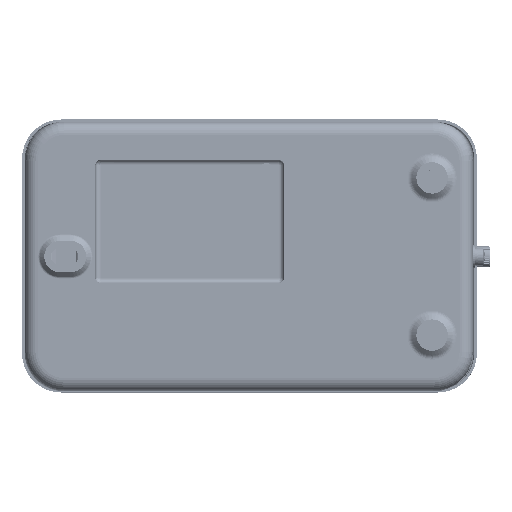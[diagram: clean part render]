
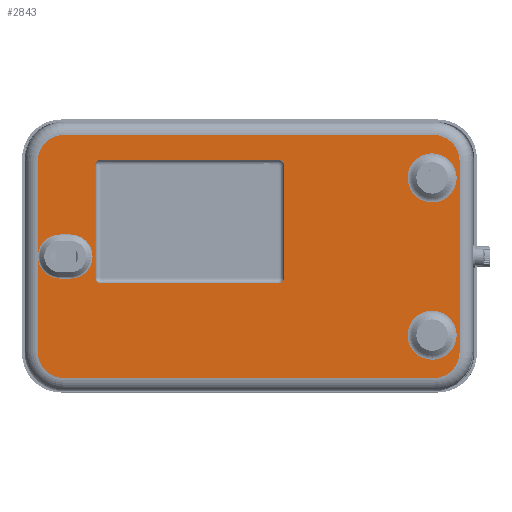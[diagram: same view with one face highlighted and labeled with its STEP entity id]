
A CAD part, top view. The second image highlights one B-rep face of the part: STEP entity #2843.
In plain terms, the highlighted planar face has unit normal (0, 0, 1).
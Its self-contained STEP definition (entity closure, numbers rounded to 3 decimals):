
#83=CARTESIAN_POINT('',(-70.5,36.4,61.8));
#84=DIRECTION('',(0.,0.,1.));
#85=DIRECTION('',(0.,1.,0.));
#86=AXIS2_PLACEMENT_3D('',#83,#84,#85);
#88=DIRECTION('',(-1.,0.,0.));
#89=VECTOR('',#88,141.);
#90=CARTESIAN_POINT('',(70.5,46.4,61.8));
#91=LINE('',#90,#89);
#92=CARTESIAN_POINT('',(70.5,36.4,61.8));
#93=DIRECTION('',(0.,0.,1.));
#94=DIRECTION('',(1.,0.,0.));
#95=AXIS2_PLACEMENT_3D('',#92,#93,#94);
#97=DIRECTION('',(0.,1.,0.));
#98=VECTOR('',#97,72.8);
#99=CARTESIAN_POINT('',(80.5,-36.4,61.8));
#100=LINE('',#99,#98);
#101=CARTESIAN_POINT('',(70.5,-36.4,61.8));
#102=DIRECTION('',(0.,0.,1.));
#103=DIRECTION('',(0.,-1.,0.));
#104=AXIS2_PLACEMENT_3D('',#101,#102,#103);
#106=DIRECTION('',(1.,0.,0.));
#107=VECTOR('',#106,141.);
#108=CARTESIAN_POINT('',(-70.5,-46.4,61.8));
#109=LINE('',#108,#107);
#110=CARTESIAN_POINT('',(-70.5,-36.4,61.8));
#111=DIRECTION('',(0.,0.,1.));
#112=DIRECTION('',(-1.,0.,0.));
#113=AXIS2_PLACEMENT_3D('',#110,#111,#112);
#115=DIRECTION('',(0.,-1.,0.));
#116=VECTOR('',#115,72.8);
#117=CARTESIAN_POINT('',(-80.5,36.4,61.8));
#118=LINE('',#117,#116);
#119=DIRECTION('',(1.,0.,0.));
#120=VECTOR('',#119,68.);
#121=CARTESIAN_POINT('',(-56.5,-10.1,61.8));
#122=LINE('',#121,#120);
#123=DIRECTION('',(0.,1.,0.));
#124=VECTOR('',#123,43.);
#125=CARTESIAN_POINT('',(13.5,-8.1,61.8));
#126=LINE('',#125,#124);
#127=DIRECTION('',(-1.,0.,0.));
#128=VECTOR('',#127,68.);
#129=CARTESIAN_POINT('',(11.5,36.9,61.8));
#130=LINE('',#129,#128);
#131=DIRECTION('',(0.,-1.,0.));
#132=VECTOR('',#131,43.);
#133=CARTESIAN_POINT('',(-58.5,34.9,61.8));
#134=LINE('',#133,#132);
#135=CARTESIAN_POINT('',(70.,30.,61.8));
#136=DIRECTION('',(0.,0.,1.));
#137=DIRECTION('',(-1.,0.,0.));
#138=AXIS2_PLACEMENT_3D('',#135,#136,#137);
#140=CARTESIAN_POINT('',(70.,30.,61.8));
#141=DIRECTION('',(0.,0.,1.));
#142=DIRECTION('',(1.,0.,0.));
#143=AXIS2_PLACEMENT_3D('',#140,#141,#142);
#145=CARTESIAN_POINT('',(70.,-30.,61.8));
#146=DIRECTION('',(0.,0.,1.));
#147=DIRECTION('',(-1.,0.,0.));
#148=AXIS2_PLACEMENT_3D('',#145,#146,#147);
#150=CARTESIAN_POINT('',(70.,-30.,61.8));
#151=DIRECTION('',(0.,0.,1.));
#152=DIRECTION('',(1.,0.,0.));
#153=AXIS2_PLACEMENT_3D('',#150,#151,#152);
#155=DIRECTION('',(-1.,0.,0.));
#156=VECTOR('',#155,4.);
#157=CARTESIAN_POINT('',(-68.,8.414,61.8));
#158=LINE('',#157,#156);
#159=CARTESIAN_POINT('',(-72.,0.,61.8));
#160=DIRECTION('',(0.,0.,1.));
#161=DIRECTION('',(0.,1.,0.));
#162=AXIS2_PLACEMENT_3D('',#159,#160,#161);
#164=DIRECTION('',(1.,0.,0.));
#165=VECTOR('',#164,4.);
#166=CARTESIAN_POINT('',(-72.,-8.414,61.8));
#167=LINE('',#166,#165);
#168=CARTESIAN_POINT('',(-68.,0.,61.8));
#169=DIRECTION('',(0.,0.,1.));
#170=DIRECTION('',(0.,-1.,0.));
#171=AXIS2_PLACEMENT_3D('',#168,#169,#170);
#1636=CARTESIAN_POINT('',(-56.5,-8.1,61.8));
#1637=DIRECTION('',(0.,0.,-1.));
#1638=DIRECTION('',(0.,-1.,0.));
#1639=AXIS2_PLACEMENT_3D('',#1636,#1637,#1638);
#1653=CARTESIAN_POINT('',(-56.5,34.9,61.8));
#1654=DIRECTION('',(0.,0.,-1.));
#1655=DIRECTION('',(-1.,0.,0.));
#1656=AXIS2_PLACEMENT_3D('',#1653,#1654,#1655);
#1670=CARTESIAN_POINT('',(11.5,34.9,61.8));
#1671=DIRECTION('',(0.,0.,-1.));
#1672=DIRECTION('',(0.,1.,0.));
#1673=AXIS2_PLACEMENT_3D('',#1670,#1671,#1672);
#1687=CARTESIAN_POINT('',(11.5,-8.1,61.8));
#1688=DIRECTION('',(0.,0.,-1.));
#1689=DIRECTION('',(1.,0.,0.));
#1690=AXIS2_PLACEMENT_3D('',#1687,#1688,#1689);
#2122=CARTESIAN_POINT('',(-70.5,46.4,61.8));
#2123=CARTESIAN_POINT('',(-80.5,36.4,61.8));
#2124=VERTEX_POINT('',#2122);
#2125=VERTEX_POINT('',#2123);
#2130=CARTESIAN_POINT('',(-80.5,-36.4,61.8));
#2131=VERTEX_POINT('',#2130);
#2134=CARTESIAN_POINT('',(-70.5,-46.4,61.8));
#2135=VERTEX_POINT('',#2134);
#2138=CARTESIAN_POINT('',(70.5,-46.4,61.8));
#2139=VERTEX_POINT('',#2138);
#2142=CARTESIAN_POINT('',(80.5,-36.4,61.8));
#2143=VERTEX_POINT('',#2142);
#2146=CARTESIAN_POINT('',(80.5,36.4,61.8));
#2147=VERTEX_POINT('',#2146);
#2150=CARTESIAN_POINT('',(70.5,46.4,61.8));
#2151=VERTEX_POINT('',#2150);
#2578=CARTESIAN_POINT('',(11.5,-10.1,61.8));
#2579=VERTEX_POINT('',#2578);
#2580=CARTESIAN_POINT('',(13.5,-8.1,61.8));
#2582=VERTEX_POINT('',#2580);
#2588=CARTESIAN_POINT('',(13.5,34.9,61.8));
#2589=VERTEX_POINT('',#2588);
#2590=CARTESIAN_POINT('',(11.5,36.9,61.8));
#2592=VERTEX_POINT('',#2590);
#2596=CARTESIAN_POINT('',(-56.5,36.9,61.8));
#2597=VERTEX_POINT('',#2596);
#2598=CARTESIAN_POINT('',(-58.5,34.9,61.8));
#2600=VERTEX_POINT('',#2598);
#2606=CARTESIAN_POINT('',(-58.5,-8.1,61.8));
#2607=VERTEX_POINT('',#2606);
#2608=CARTESIAN_POINT('',(-56.5,-10.1,61.8));
#2609=VERTEX_POINT('',#2608);
#2677=CARTESIAN_POINT('',(60.623,30.,61.8));
#2678=CARTESIAN_POINT('',(79.377,30.,61.8));
#2679=VERTEX_POINT('',#2677);
#2680=VERTEX_POINT('',#2678);
#2685=CARTESIAN_POINT('',(60.623,-30.,61.8));
#2686=CARTESIAN_POINT('',(79.377,-30.,61.8));
#2687=VERTEX_POINT('',#2685);
#2688=VERTEX_POINT('',#2686);
#2693=CARTESIAN_POINT('',(-68.,8.414,61.8));
#2694=CARTESIAN_POINT('',(-72.,8.414,61.8));
#2695=VERTEX_POINT('',#2693);
#2696=VERTEX_POINT('',#2694);
#2701=CARTESIAN_POINT('',(-72.,-8.414,61.8));
#2702=VERTEX_POINT('',#2701);
#2705=CARTESIAN_POINT('',(-68.,-8.414,61.8));
#2706=VERTEX_POINT('',#2705);
#2781=CARTESIAN_POINT('',(0.,0.,61.8));
#2782=DIRECTION('',(0.,0.,1.));
#2783=DIRECTION('',(-1.,0.,0.));
#2784=AXIS2_PLACEMENT_3D('',#2781,#2782,#2783);
#2785=PLANE('',#2784);
#2787=ORIENTED_EDGE('',*,*,#2786,.F.);
#2789=ORIENTED_EDGE('',*,*,#2788,.F.);
#2791=ORIENTED_EDGE('',*,*,#2790,.F.);
#2793=ORIENTED_EDGE('',*,*,#2792,.F.);
#2795=ORIENTED_EDGE('',*,*,#2794,.F.);
#2797=ORIENTED_EDGE('',*,*,#2796,.F.);
#2798=ORIENTED_EDGE('',*,*,#2771,.F.);
#2800=ORIENTED_EDGE('',*,*,#2799,.F.);
#2801=EDGE_LOOP('',(#2787,#2789,#2791,#2793,#2795,#2797,#2798,#2800));
#2802=FACE_OUTER_BOUND('',#2801,.F.);
#2804=ORIENTED_EDGE('',*,*,#2803,.T.);
#2806=ORIENTED_EDGE('',*,*,#2805,.F.);
#2808=ORIENTED_EDGE('',*,*,#2807,.T.);
#2810=ORIENTED_EDGE('',*,*,#2809,.F.);
#2812=ORIENTED_EDGE('',*,*,#2811,.T.);
#2814=ORIENTED_EDGE('',*,*,#2813,.F.);
#2816=ORIENTED_EDGE('',*,*,#2815,.T.);
#2818=ORIENTED_EDGE('',*,*,#2817,.F.);
#2819=EDGE_LOOP('',(#2804,#2806,#2808,#2810,#2812,#2814,#2816,#2818));
#2820=FACE_BOUND('',#2819,.F.);
#2822=ORIENTED_EDGE('',*,*,#2821,.T.);
#2824=ORIENTED_EDGE('',*,*,#2823,.T.);
#2825=EDGE_LOOP('',(#2822,#2824));
#2826=FACE_BOUND('',#2825,.F.);
#2828=ORIENTED_EDGE('',*,*,#2827,.T.);
#2830=ORIENTED_EDGE('',*,*,#2829,.T.);
#2831=EDGE_LOOP('',(#2828,#2830));
#2832=FACE_BOUND('',#2831,.F.);
#2834=ORIENTED_EDGE('',*,*,#2833,.T.);
#2836=ORIENTED_EDGE('',*,*,#2835,.T.);
#2838=ORIENTED_EDGE('',*,*,#2837,.T.);
#2840=ORIENTED_EDGE('',*,*,#2839,.T.);
#2841=EDGE_LOOP('',(#2834,#2836,#2838,#2840));
#2842=FACE_BOUND('',#2841,.F.);
#2843=ADVANCED_FACE('',(#2802,#2820,#2826,#2832,#2842),#2785,.T.);
#87=CIRCLE('',#86,10.);
#96=CIRCLE('',#95,10.);
#105=CIRCLE('',#104,10.);
#114=CIRCLE('',#113,10.);
#139=CIRCLE('',#138,9.377);
#144=CIRCLE('',#143,9.377);
#149=CIRCLE('',#148,9.377);
#154=CIRCLE('',#153,9.377);
#163=CIRCLE('',#162,8.414);
#172=CIRCLE('',#171,8.414);
#1640=CIRCLE('',#1639,2.);
#1657=CIRCLE('',#1656,2.);
#1674=CIRCLE('',#1673,2.);
#1691=CIRCLE('',#1690,2.);
#2771=EDGE_CURVE('',#2131,#2135,#114,.T.);
#2786=EDGE_CURVE('',#2124,#2125,#87,.T.);
#2788=EDGE_CURVE('',#2151,#2124,#91,.T.);
#2790=EDGE_CURVE('',#2147,#2151,#96,.T.);
#2792=EDGE_CURVE('',#2143,#2147,#100,.T.);
#2794=EDGE_CURVE('',#2139,#2143,#105,.T.);
#2796=EDGE_CURVE('',#2135,#2139,#109,.T.);
#2799=EDGE_CURVE('',#2125,#2131,#118,.T.);
#2803=EDGE_CURVE('',#2609,#2579,#122,.T.);
#2805=EDGE_CURVE('',#2582,#2579,#1691,.T.);
#2807=EDGE_CURVE('',#2582,#2589,#126,.T.);
#2809=EDGE_CURVE('',#2592,#2589,#1674,.T.);
#2811=EDGE_CURVE('',#2592,#2597,#130,.T.);
#2813=EDGE_CURVE('',#2600,#2597,#1657,.T.);
#2815=EDGE_CURVE('',#2600,#2607,#134,.T.);
#2817=EDGE_CURVE('',#2609,#2607,#1640,.T.);
#2821=EDGE_CURVE('',#2679,#2680,#139,.T.);
#2823=EDGE_CURVE('',#2680,#2679,#144,.T.);
#2827=EDGE_CURVE('',#2687,#2688,#149,.T.);
#2829=EDGE_CURVE('',#2688,#2687,#154,.T.);
#2833=EDGE_CURVE('',#2695,#2696,#158,.T.);
#2835=EDGE_CURVE('',#2696,#2702,#163,.T.);
#2837=EDGE_CURVE('',#2702,#2706,#167,.T.);
#2839=EDGE_CURVE('',#2706,#2695,#172,.T.);
